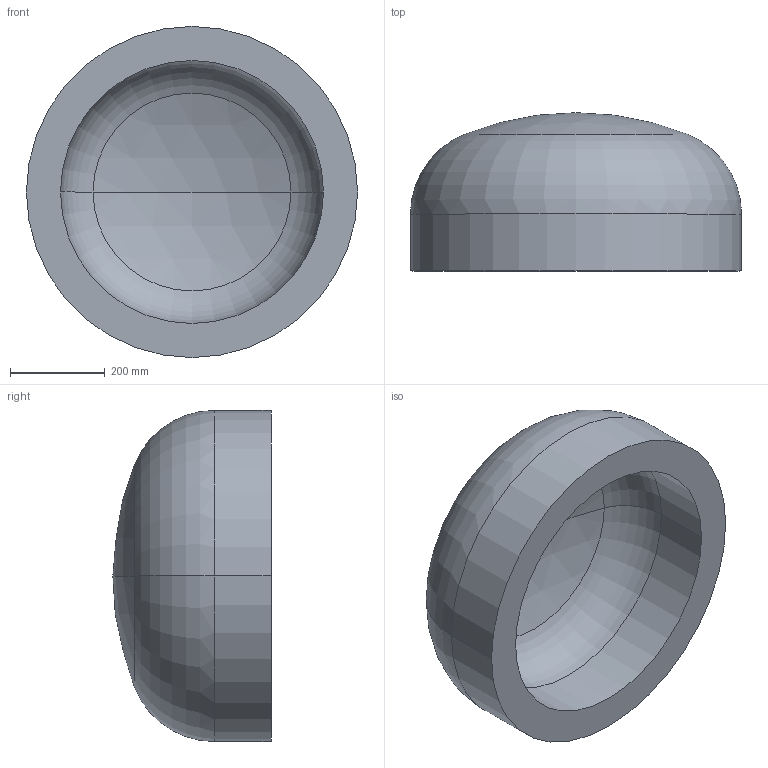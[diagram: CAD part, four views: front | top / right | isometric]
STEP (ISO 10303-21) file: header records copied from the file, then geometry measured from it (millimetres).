
FILE_DESCRIPTION (( 'STEP AP203' ), '1' );
FILE_NAME ('DIN 28013 Korbbogenform_-_Boden DIN 28013 - 700 x 120 - I - s=72.step', '2016-07-01T08:10:13', ( '' ), ( '' ), 'SwSTEP 2.0', 'SolidWorks 2013', '' );
FILE_SCHEMA (( 'CONFIG_CONTROL_DESIGN' ));
Length unit declared in the file: millimetre
Products named in the file (1): DIN 28013 Korbbogenform_-_Boden DIN 28013 - 700 x 120 - I - s=72
Bounding box: 700 x 334.54 x 700 mm (x, y, z)
Volume: 50990593 mm3; surface area: 1569312.8 mm2
Topology: 1 solids, 1 shells, 13 faces, 24 edges, 14 vertices
Faces by surface type: torus 4, cylinder 4, sphere 4, plane 1
Entity records: 407 total; most frequent: DIRECTION 72, CARTESIAN_POINT 52, ORIENTED_EDGE 48, AXIS2_PLACEMENT_3D 34, EDGE_CURVE 24, CIRCLE 20, EDGE_LOOP 14, VERTEX_POINT 14
